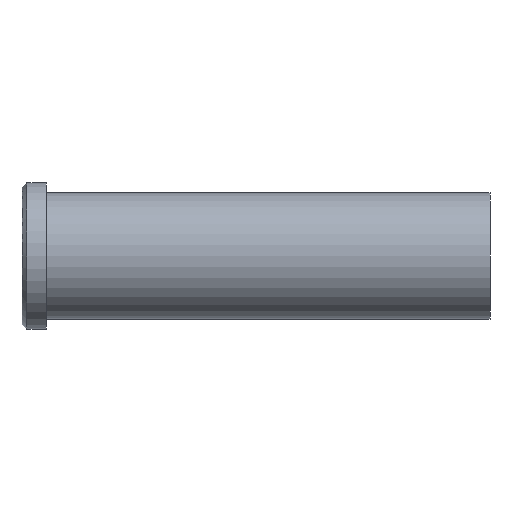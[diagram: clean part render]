
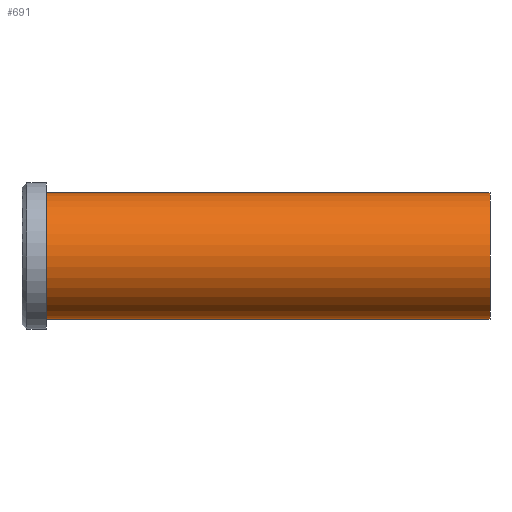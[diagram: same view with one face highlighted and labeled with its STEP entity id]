
A CAD part, front view. The second image highlights one B-rep face of the part: STEP entity #691.
In plain terms, the highlighted cylindrical face has radius 13 mm (diameter 26 mm), a partial arc.
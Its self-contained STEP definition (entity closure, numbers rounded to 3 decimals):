
#501=CARTESIAN_POINT('Vertex',(0.,0.,-13.)) ;
#506=CARTESIAN_POINT('Axis2P3D Location',(0.,0.,0.)) ;
#510=CARTESIAN_POINT('Vertex',(0.,-13.,0.)) ;
#513=CARTESIAN_POINT('Axis2P3D Location',(0.,0.,0.)) ;
#517=CARTESIAN_POINT('Vertex',(0.,0.,13.)) ;
#631=CARTESIAN_POINT('Line Origine',(91.,0.,13.)) ;
#635=CARTESIAN_POINT('Vertex',(91.,0.,13.)) ;
#649=CARTESIAN_POINT('Vertex',(91.,0.,-13.)) ;
#652=CARTESIAN_POINT('Line Origine',(91.,0.,-13.)) ;
#666=CARTESIAN_POINT('Axis2P3D Location',(91.,0.,0.)) ;
#671=CARTESIAN_POINT('Axis2P3D Location',(91.,0.,0.)) ;
#675=CARTESIAN_POINT('Vertex',(91.,-13.,0.)) ;
#678=CARTESIAN_POINT('Axis2P3D Location',(91.,0.,0.)) ;
#507=DIRECTION('Axis2P3D Direction',(1.,0.,-0.)) ;
#514=DIRECTION('Axis2P3D Direction',(1.,0.,-0.)) ;
#632=DIRECTION('Vector Direction',(-1.,0.,0.)) ;
#653=DIRECTION('Vector Direction',(-1.,0.,0.)) ;
#667=DIRECTION('Axis2P3D Direction',(-1.,-0.,-0.)) ;
#668=DIRECTION('Axis2P3D XDirection',(0.,0.,-1.)) ;
#672=DIRECTION('Axis2P3D Direction',(-1.,-0.,-0.)) ;
#679=DIRECTION('Axis2P3D Direction',(-1.,-0.,-0.)) ;
#508=AXIS2_PLACEMENT_3D('Circle Axis2P3D',#506,#507,$) ;
#515=AXIS2_PLACEMENT_3D('Circle Axis2P3D',#513,#514,$) ;
#669=AXIS2_PLACEMENT_3D('Cylinder Axis2P3D',#666,#667,#668) ;
#673=AXIS2_PLACEMENT_3D('Circle Axis2P3D',#671,#672,$) ;
#680=AXIS2_PLACEMENT_3D('Circle Axis2P3D',#678,#679,$) ;
#684=ORIENTED_EDGE('',*,*,#656,.T.) ;
#685=ORIENTED_EDGE('',*,*,#677,.F.) ;
#686=ORIENTED_EDGE('',*,*,#682,.F.) ;
#687=ORIENTED_EDGE('',*,*,#637,.T.) ;
#688=ORIENTED_EDGE('',*,*,#519,.T.) ;
#689=ORIENTED_EDGE('',*,*,#512,.T.) ;
#633=VECTOR('Line Direction',#632,1.) ;
#654=VECTOR('Line Direction',#653,1.) ;
#691=ADVANCED_FACE('353-18X96',(#690),#670,.T.) ;
#509=CIRCLE('generated circle',#508,13.) ;
#516=CIRCLE('generated circle',#515,13.) ;
#674=CIRCLE('generated circle',#673,13.) ;
#681=CIRCLE('generated circle',#680,13.) ;
#670=CYLINDRICAL_SURFACE('generated cylinder',#669,13.) ;
#512=EDGE_CURVE('',#511,#502,#509,.T.) ;
#519=EDGE_CURVE('',#518,#511,#516,.T.) ;
#637=EDGE_CURVE('',#636,#518,#634,.T.) ;
#656=EDGE_CURVE('',#502,#650,#655,.F.) ;
#677=EDGE_CURVE('',#676,#650,#674,.F.) ;
#682=EDGE_CURVE('',#636,#676,#681,.F.) ;
#683=EDGE_LOOP('',(#684,#685,#686,#687,#688,#689)) ;
#690=FACE_OUTER_BOUND('',#683,.T.) ;
#634=LINE('Line',#631,#633) ;
#655=LINE('Line',#652,#654) ;
#502=VERTEX_POINT('',#501) ;
#511=VERTEX_POINT('',#510) ;
#518=VERTEX_POINT('',#517) ;
#636=VERTEX_POINT('',#635) ;
#650=VERTEX_POINT('',#649) ;
#676=VERTEX_POINT('',#675) ;
